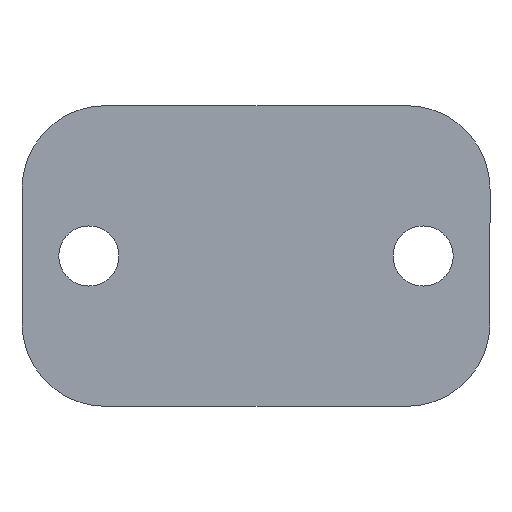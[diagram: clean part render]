
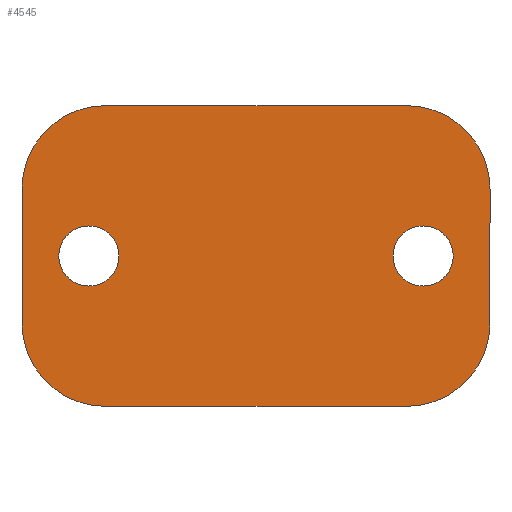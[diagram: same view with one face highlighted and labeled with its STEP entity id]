
A CAD part, front view. The second image highlights one B-rep face of the part: STEP entity #4545.
In plain terms, the highlighted planar face has unit normal (0, -1, 0).
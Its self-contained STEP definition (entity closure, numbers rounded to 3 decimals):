
#93 = DIRECTION ( 'NONE',  ( 0., -1., 0. ) ) ;
#128 = ORIENTED_EDGE ( 'NONE', *, *, #4359, .T. ) ;
#169 = VECTOR ( 'NONE', #1388, 1000. ) ;
#487 = VECTOR ( 'NONE', #2849, 1000. ) ;
#566 = CIRCLE ( 'NONE', #3839, 25. ) ;
#685 = DIRECTION ( 'NONE',  ( 1., 0., 0. ) ) ;
#741 = VERTEX_POINT ( 'NONE', #770 ) ;
#770 = CARTESIAN_POINT ( 'NONE',  ( -70., -20., -20. ) ) ;
#877 = VERTEX_POINT ( 'NONE', #5194 ) ;
#966 = DIRECTION ( 'NONE',  ( 0., -1., 0. ) ) ;
#967 = LINE ( 'NONE', #1473, #5400 ) ;
#984 = DIRECTION ( 'NONE',  ( 1., 0., 0. ) ) ;
#1079 = EDGE_CURVE ( 'NONE', #1965, #877, #5264, .T. ) ;
#1108 = VERTEX_POINT ( 'NONE', #4001 ) ;
#1119 = CIRCLE ( 'NONE', #3762, 25. ) ;
#1180 = CARTESIAN_POINT ( 'NONE',  ( 45., -20., -45. ) ) ;
#1214 = VERTEX_POINT ( 'NONE', #2396 ) ;
#1223 = AXIS2_PLACEMENT_3D ( 'NONE', #3817, #5559, #685 ) ;
#1310 = CARTESIAN_POINT ( 'NONE',  ( -50., -20., 0. ) ) ;
#1388 = DIRECTION ( 'NONE',  ( -1., 0., 0. ) ) ;
#1420 = CARTESIAN_POINT ( 'NONE',  ( -70., -20., 20. ) ) ;
#1473 = CARTESIAN_POINT ( 'NONE',  ( -45., -20., -45. ) ) ;
#1538 = DIRECTION ( 'NONE',  ( 1., 0., 0. ) ) ;
#1654 = CIRCLE ( 'NONE', #4863, 9. ) ;
#1688 = VECTOR ( 'NONE', #5654, 1000. ) ;
#1784 = CARTESIAN_POINT ( 'NONE',  ( 59., -20., 0. ) ) ;
#1798 = EDGE_LOOP ( 'NONE', ( #3778, #3640 ) ) ;
#1815 = EDGE_CURVE ( 'NONE', #1214, #2375, #4419, .T. ) ;
#1904 = DIRECTION ( 'NONE',  ( 1., 0., 0. ) ) ;
#1906 = EDGE_CURVE ( 'NONE', #1108, #4895, #5099, .T. ) ;
#1965 = VERTEX_POINT ( 'NONE', #2301 ) ;
#2169 = CARTESIAN_POINT ( 'NONE',  ( 70., -20., 20. ) ) ;
#2196 = CARTESIAN_POINT ( 'NONE',  ( -45., -20., -45. ) ) ;
#2199 = ORIENTED_EDGE ( 'NONE', *, *, #4082, .T. ) ;
#2213 = DIRECTION ( 'NONE',  ( 1., 0., 0. ) ) ;
#2273 = DIRECTION ( 'NONE',  ( 0., -1., 0. ) ) ;
#2294 = CARTESIAN_POINT ( 'NONE',  ( 45., -20., 20. ) ) ;
#2301 = CARTESIAN_POINT ( 'NONE',  ( 70., -20., -20. ) ) ;
#2375 = VERTEX_POINT ( 'NONE', #5431 ) ;
#2396 = CARTESIAN_POINT ( 'NONE',  ( 45., -20., 45. ) ) ;
#2407 = CIRCLE ( 'NONE', #3688, 25. ) ;
#2489 = VERTEX_POINT ( 'NONE', #1180 ) ;
#2503 = DIRECTION ( 'NONE',  ( 1., 0., 0. ) ) ;
#2508 = DIRECTION ( 'NONE',  ( 1., 0., 0. ) ) ;
#2580 = AXIS2_PLACEMENT_3D ( 'NONE', #1310, #966, #5224 ) ;
#2588 = ORIENTED_EDGE ( 'NONE', *, *, #5407, .T. ) ;
#2679 = ORIENTED_EDGE ( 'NONE', *, *, #2689, .T. ) ;
#2689 = EDGE_CURVE ( 'NONE', #3818, #2489, #967, .T. ) ;
#2785 = DIRECTION ( 'NONE',  ( 0., -1., 0. ) ) ;
#2849 = DIRECTION ( 'NONE',  ( 0., 0., -1. ) ) ;
#2948 = CIRCLE ( 'NONE', #4769, 9. ) ;
#2955 = CIRCLE ( 'NONE', #2580, 9. ) ;
#3053 = CIRCLE ( 'NONE', #1223, 25. ) ;
#3079 = FACE_BOUND ( 'NONE', #4331, .T. ) ;
#3177 = EDGE_CURVE ( 'NONE', #877, #1214, #566, .T. ) ;
#3191 = PLANE ( 'NONE',  #4771 ) ;
#3216 = EDGE_CURVE ( 'NONE', #5624, #4491, #1654, .T. ) ;
#3217 = EDGE_CURVE ( 'NONE', #4491, #5624, #2948, .T. ) ;
#3247 = FACE_BOUND ( 'NONE', #1798, .T. ) ;
#3254 = ORIENTED_EDGE ( 'NONE', *, *, #3177, .T. ) ;
#3292 = DIRECTION ( 'NONE',  ( 1., 0., 0. ) ) ;
#3331 = LINE ( 'NONE', #4586, #487 ) ;
#3394 = CARTESIAN_POINT ( 'NONE',  ( 45., -20., -20. ) ) ;
#3480 = DIRECTION ( 'NONE',  ( 0., -1., 0. ) ) ;
#3640 = ORIENTED_EDGE ( 'NONE', *, *, #3216, .F. ) ;
#3667 = CARTESIAN_POINT ( 'NONE',  ( 50., -20., 0. ) ) ;
#3688 = AXIS2_PLACEMENT_3D ( 'NONE', #5089, #4653, #2508 ) ;
#3692 = DIRECTION ( 'NONE',  ( 0., -1., 0. ) ) ;
#3762 = AXIS2_PLACEMENT_3D ( 'NONE', #3394, #5112, #2503 ) ;
#3778 = ORIENTED_EDGE ( 'NONE', *, *, #3217, .F. ) ;
#3817 = CARTESIAN_POINT ( 'NONE',  ( -45., -20., 20. ) ) ;
#3818 = VERTEX_POINT ( 'NONE', #2196 ) ;
#3839 = AXIS2_PLACEMENT_3D ( 'NONE', #2294, #93, #4903 ) ;
#3963 = ORIENTED_EDGE ( 'NONE', *, *, #5093, .F. ) ;
#3998 = ORIENTED_EDGE ( 'NONE', *, *, #1079, .T. ) ;
#4001 = CARTESIAN_POINT ( 'NONE',  ( -41., -20., 0. ) ) ;
#4017 = CARTESIAN_POINT ( 'NONE',  ( -50., -20., 0. ) ) ;
#4082 = EDGE_CURVE ( 'NONE', #2489, #1965, #1119, .T. ) ;
#4124 = FACE_OUTER_BOUND ( 'NONE', #5434, .T. ) ;
#4331 = EDGE_LOOP ( 'NONE', ( #5265, #3963 ) ) ;
#4359 = EDGE_CURVE ( 'NONE', #5655, #741, #3331, .T. ) ;
#4419 = LINE ( 'NONE', #4478, #169 ) ;
#4478 = CARTESIAN_POINT ( 'NONE',  ( -45., -20., 45. ) ) ;
#4491 = VERTEX_POINT ( 'NONE', #1784 ) ;
#4545 = ADVANCED_FACE ( 'NONE', ( #3079, #3247, #4124 ), #3191, .T. ) ;
#4586 = CARTESIAN_POINT ( 'NONE',  ( -70., -20., 20. ) ) ;
#4631 = AXIS2_PLACEMENT_3D ( 'NONE', #4017, #3480, #2213 ) ;
#4653 = DIRECTION ( 'NONE',  ( 0., -1., 0. ) ) ;
#4711 = CARTESIAN_POINT ( 'NONE',  ( 41., -20., 0. ) ) ;
#4769 = AXIS2_PLACEMENT_3D ( 'NONE', #3667, #2785, #1538 ) ;
#4771 = AXIS2_PLACEMENT_3D ( 'NONE', #4906, #2273, #984 ) ;
#4863 = AXIS2_PLACEMENT_3D ( 'NONE', #5429, #3692, #3292 ) ;
#4877 = ORIENTED_EDGE ( 'NONE', *, *, #1815, .T. ) ;
#4895 = VERTEX_POINT ( 'NONE', #5568 ) ;
#4903 = DIRECTION ( 'NONE',  ( 1., 0., 0. ) ) ;
#4906 = CARTESIAN_POINT ( 'NONE',  ( 0., -20., 0. ) ) ;
#5089 = CARTESIAN_POINT ( 'NONE',  ( -45., -20., -20. ) ) ;
#5093 = EDGE_CURVE ( 'NONE', #4895, #1108, #2955, .T. ) ;
#5099 = CIRCLE ( 'NONE', #4631, 9. ) ;
#5112 = DIRECTION ( 'NONE',  ( 0., -1., 0. ) ) ;
#5194 = CARTESIAN_POINT ( 'NONE',  ( 70., -20., 20. ) ) ;
#5224 = DIRECTION ( 'NONE',  ( 1., 0., 0. ) ) ;
#5264 = LINE ( 'NONE', #2169, #1688 ) ;
#5265 = ORIENTED_EDGE ( 'NONE', *, *, #1906, .F. ) ;
#5400 = VECTOR ( 'NONE', #1904, 1000. ) ;
#5407 = EDGE_CURVE ( 'NONE', #2375, #5655, #3053, .T. ) ;
#5424 = ORIENTED_EDGE ( 'NONE', *, *, #5466, .T. ) ;
#5429 = CARTESIAN_POINT ( 'NONE',  ( 50., -20., 0. ) ) ;
#5431 = CARTESIAN_POINT ( 'NONE',  ( -45., -20., 45. ) ) ;
#5434 = EDGE_LOOP ( 'NONE', ( #5424, #2679, #2199, #3998, #3254, #4877, #2588, #128 ) ) ;
#5466 = EDGE_CURVE ( 'NONE', #741, #3818, #2407, .T. ) ;
#5559 = DIRECTION ( 'NONE',  ( 0., -1., 0. ) ) ;
#5568 = CARTESIAN_POINT ( 'NONE',  ( -59., -20., 0. ) ) ;
#5624 = VERTEX_POINT ( 'NONE', #4711 ) ;
#5654 = DIRECTION ( 'NONE',  ( 0., 0., 1. ) ) ;
#5655 = VERTEX_POINT ( 'NONE', #1420 ) ;
